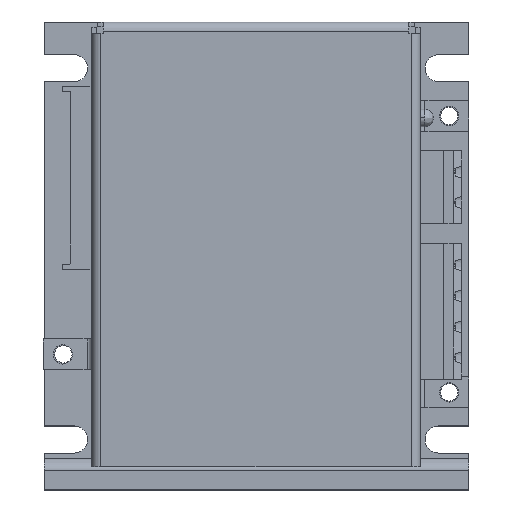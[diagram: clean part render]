
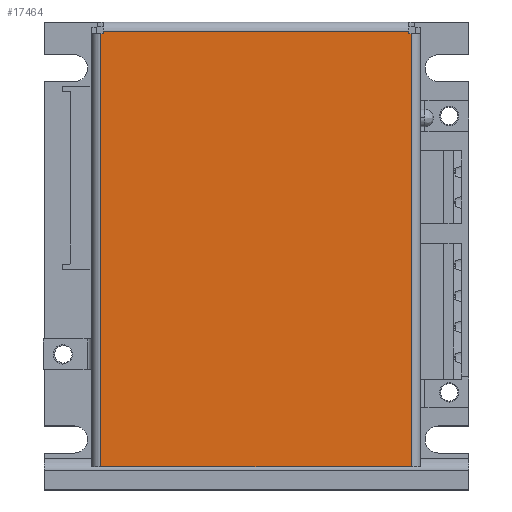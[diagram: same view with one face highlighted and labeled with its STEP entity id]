
A CAD part, top view. The second image highlights one B-rep face of the part: STEP entity #17464.
In plain terms, the highlighted planar face has unit normal (0, 0, 1).
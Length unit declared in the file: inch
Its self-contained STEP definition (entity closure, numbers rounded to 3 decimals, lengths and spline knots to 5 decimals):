
#2970 = EDGE_CURVE ( 'NONE', #4567, #4566, #9416, .T. ) ;
#2972 = EDGE_CURVE ( 'NONE', #4566, #26522, #9457, .T. ) ;
#2976 = EDGE_CURVE ( 'NONE', #4571, #4570, #9475, .T. ) ;
#2978 = EDGE_CURVE ( 'NONE', #4570, #4572, #9486, .T. ) ;
#2979 = EDGE_CURVE ( 'NONE', #4572, #4567, #9510, .T. ) ;
#2996 = EDGE_CURVE ( 'NONE', #26522, #4584, #9610, .T. ) ;
#2997 = EDGE_CURVE ( 'NONE', #4584, #4586, #9616, .T. ) ;
#2998 = EDGE_CURVE ( 'NONE', #4586, #4571, #9622, .T. ) ;
#3739 = ORIENTED_EDGE ( 'NONE', *, *, #2978, .T. ) ;
#3740 = ORIENTED_EDGE ( 'NONE', *, *, #2979, .T. ) ;
#3741 = ORIENTED_EDGE ( 'NONE', *, *, #2970, .T. ) ;
#3742 = ORIENTED_EDGE ( 'NONE', *, *, #2972, .T. ) ;
#3743 = ORIENTED_EDGE ( 'NONE', *, *, #2996, .T. ) ;
#3744 = ORIENTED_EDGE ( 'NONE', *, *, #2997, .T. ) ;
#3745 = ORIENTED_EDGE ( 'NONE', *, *, #2998, .T. ) ;
#3746 = ORIENTED_EDGE ( 'NONE', *, *, #2976, .T. ) ;
#4566 = VERTEX_POINT ( 'NONE', #14290 ) ;
#4567 = VERTEX_POINT ( 'NONE', #14302 ) ;
#4570 = VERTEX_POINT ( 'NONE', #14306 ) ;
#4571 = VERTEX_POINT ( 'NONE', #14308 ) ;
#4572 = VERTEX_POINT ( 'NONE', #14310 ) ;
#4584 = VERTEX_POINT ( 'NONE', #14334 ) ;
#4586 = VERTEX_POINT ( 'NONE', #14338 ) ;
#6898 = VECTOR ( 'NONE', #9458, 39.37008 ) ;
#6901 = VECTOR ( 'NONE', #9471, 39.37008 ) ;
#6906 = VECTOR ( 'NONE', #9496, 39.37008 ) ;
#6909 = VECTOR ( 'NONE', #9509, 39.37008 ) ;
#6911 = VECTOR ( 'NONE', #9515, 39.37008 ) ;
#6928 = VECTOR ( 'NONE', #9615, 39.37008 ) ;
#6929 = VECTOR ( 'NONE', #9621, 39.37008 ) ;
#6930 = VECTOR ( 'NONE', #9627, 39.37008 ) ;
#9416 = LINE ( 'NONE', #9430, #6898 ) ;
#9430 = CARTESIAN_POINT ( 'NONE',  ( 0., 1.3625, 0.875 ) ) ;
#9448 = CARTESIAN_POINT ( 'NONE',  ( -1.0025, -0.03, 0.875 ) ) ;
#9457 = LINE ( 'NONE', #9448, #6901 ) ;
#9458 = DIRECTION ( 'NONE',  ( -1., 0., 0. ) ) ;
#9462 = CARTESIAN_POINT ( 'NONE',  ( 0.9875, -0.03, 0.875 ) ) ;
#9471 = DIRECTION ( 'NONE',  ( 0., -1., 0. ) ) ;
#9475 = LINE ( 'NONE', #9462, #6906 ) ;
#9486 = LINE ( 'NONE', #9488, #6909 ) ;
#9488 = CARTESIAN_POINT ( 'NONE',  ( 0., 1.3775, 0.875 ) ) ;
#9496 = DIRECTION ( 'NONE',  ( 0., 1., 0. ) ) ;
#9509 = DIRECTION ( 'NONE',  ( -1., 0., 0. ) ) ;
#9510 = LINE ( 'NONE', #9513, #6911 ) ;
#9513 = CARTESIAN_POINT ( 'NONE',  ( -0.9875, -0.03, 0.875 ) ) ;
#9515 = DIRECTION ( 'NONE',  ( 0., -1., 0. ) ) ;
#9610 = LINE ( 'NONE', #9613, #6928 ) ;
#9613 = CARTESIAN_POINT ( 'NONE',  ( 0., -1.4375, 0.875 ) ) ;
#9615 = DIRECTION ( 'NONE',  ( 1., 0., 0. ) ) ;
#9616 = LINE ( 'NONE', #9619, #6929 ) ;
#9619 = CARTESIAN_POINT ( 'NONE',  ( 1.0025, -0.0375, 0.875 ) ) ;
#9621 = DIRECTION ( 'NONE',  ( 0., 1., 0. ) ) ;
#9622 = LINE ( 'NONE', #9625, #6930 ) ;
#9625 = CARTESIAN_POINT ( 'NONE',  ( 0., 1.3625, 0.875 ) ) ;
#9627 = DIRECTION ( 'NONE',  ( -1., 0., 0. ) ) ;
#14290 = CARTESIAN_POINT ( 'NONE',  ( -1.0025, 1.3625, 0.875 ) ) ;
#14302 = CARTESIAN_POINT ( 'NONE',  ( -0.9875, 1.3625, 0.875 ) ) ;
#14306 = CARTESIAN_POINT ( 'NONE',  ( 0.9875, 1.3775, 0.875 ) ) ;
#14308 = CARTESIAN_POINT ( 'NONE',  ( 0.9875, 1.3625, 0.875 ) ) ;
#14310 = CARTESIAN_POINT ( 'NONE',  ( -0.9875, 1.3775, 0.875 ) ) ;
#14334 = CARTESIAN_POINT ( 'NONE',  ( 1.0025, -1.4375, 0.875 ) ) ;
#14338 = CARTESIAN_POINT ( 'NONE',  ( 1.0025, 1.3625, 0.875 ) ) ;
#17464 = ADVANCED_FACE ( 'NONE', ( #64016 ), #64000, .T. ) ;
#26522 = VERTEX_POINT ( 'NONE', #67360 ) ;
#27511 = EDGE_LOOP ( 'NONE', ( #3739, #3740, #3741, #3742, #3743, #3744, #3745, #3746 ) ) ;
#64000 = PLANE ( 'NONE',  #64502 ) ;
#64016 = FACE_OUTER_BOUND ( 'NONE', #27511, .T. ) ;
#64028 = CARTESIAN_POINT ( 'NONE',  ( -1.0025, -1.4375, 0.875 ) ) ;
#64029 = DIRECTION ( 'NONE',  ( 0., 0., 1. ) ) ;
#64030 = DIRECTION ( 'NONE',  ( 1., 0., 0. ) ) ;
#64502 = AXIS2_PLACEMENT_3D ( 'NONE', #64028, #64029, #64030 ) ;
#67360 = CARTESIAN_POINT ( 'NONE',  ( -1.0025, -1.4375, 0.875 ) ) ;
